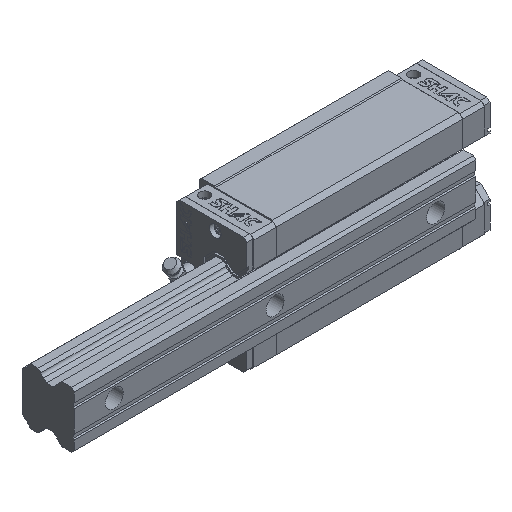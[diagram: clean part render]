
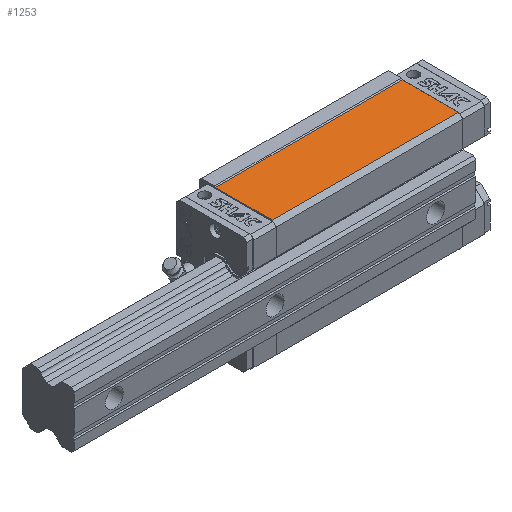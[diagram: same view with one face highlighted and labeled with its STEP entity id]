
A CAD part, isometric view. The second image highlights one B-rep face of the part: STEP entity #1253.
In plain terms, the highlighted planar face has unit normal (0, 0, 1).
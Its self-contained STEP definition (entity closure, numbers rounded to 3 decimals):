
#1253 = ADVANCED_FACE( '', ( #2609 ), #2610, .F. );
#2609 = FACE_OUTER_BOUND( '', #4153, .T. );
#2610 = PLANE( '', #4154 );
#4153 = EDGE_LOOP( '', ( #7303, #7304, #7305, #7306 ) );
#4154 = AXIS2_PLACEMENT_3D( '', #7307, #7308, #7309 );
#7303 = ORIENTED_EDGE( '', *, *, #9243, .T. );
#7304 = ORIENTED_EDGE( '', *, *, #10117, .F. );
#7305 = ORIENTED_EDGE( '', *, *, #8961, .F. );
#7306 = ORIENTED_EDGE( '', *, *, #10119, .T. );
#7307 = CARTESIAN_POINT( '', ( 46.5, 36.036, 29.536 ) );
#7308 = DIRECTION( '', ( 0., 0., -1. ) );
#7309 = DIRECTION( '', ( -1., 0., 0. ) );
#8961 = EDGE_CURVE( '', #10617, #10619, #10620, .T. );
#9243 = EDGE_CURVE( '', #11135, #11133, #11136, .T. );
#10117 = EDGE_CURVE( '', #10619, #11133, #12468, .T. );
#10119 = EDGE_CURVE( '', #10617, #11135, #12470, .T. );
#10617 = VERTEX_POINT( '', #13073 );
#10619 = VERTEX_POINT( '', #13076 );
#10620 = LINE( '', #13077, #13078 );
#11133 = VERTEX_POINT( '', #13828 );
#11135 = VERTEX_POINT( '', #13831 );
#11136 = LINE( '', #13832, #13833 );
#12468 = LINE( '', #15795, #15796 );
#12470 = LINE( '', #15798, #15799 );
#13073 = CARTESIAN_POINT( '', ( 46.5, 36.036, 29.536 ) );
#13076 = CARTESIAN_POINT( '', ( 46.5, 7.975, 29.536 ) );
#13077 = CARTESIAN_POINT( '', ( 46.5, 36.036, 29.536 ) );
#13078 = VECTOR( '', #16653, 1000. );
#13828 = CARTESIAN_POINT( '', ( -46.5, 7.975, 29.536 ) );
#13831 = CARTESIAN_POINT( '', ( -46.5, 36.036, 29.536 ) );
#13832 = CARTESIAN_POINT( '', ( -46.5, 36.036, 29.536 ) );
#13833 = VECTOR( '', #16959, 1000. );
#15795 = CARTESIAN_POINT( '', ( 46.5, 7.975, 29.536 ) );
#15796 = VECTOR( '', #17812, 1000. );
#15798 = CARTESIAN_POINT( '', ( 46.5, 36.036, 29.536 ) );
#15799 = VECTOR( '', #17813, 1000. );
#16653 = DIRECTION( '', ( 0., -1., 0. ) );
#16959 = DIRECTION( '', ( 0., -1., 0. ) );
#17812 = DIRECTION( '', ( -1., 0., 0. ) );
#17813 = DIRECTION( '', ( -1., 0., 0. ) );
